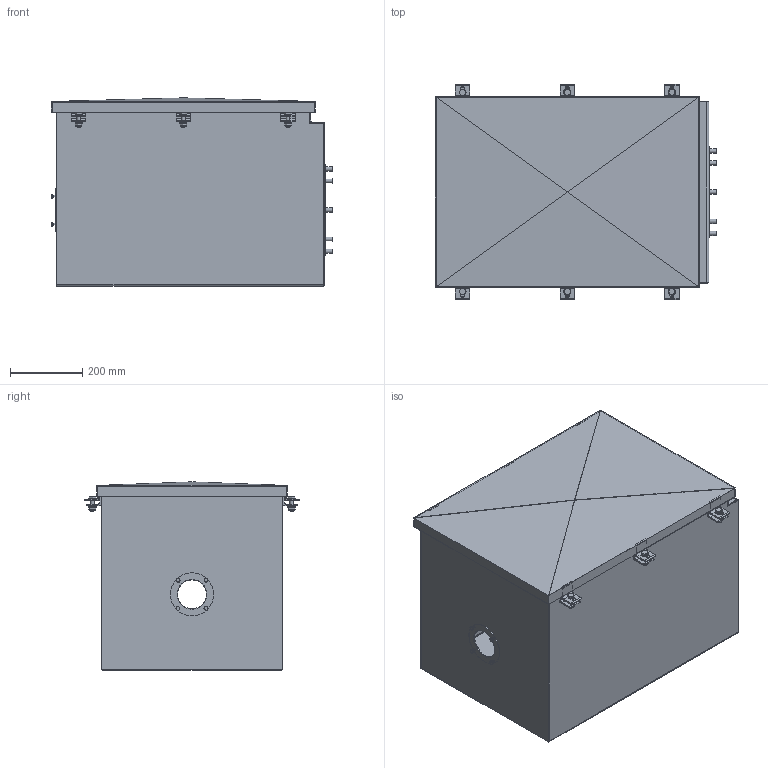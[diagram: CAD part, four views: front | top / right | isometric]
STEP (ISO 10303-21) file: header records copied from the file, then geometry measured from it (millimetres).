
FILE_DESCRIPTION(/* description */ (''),/* implementation_level */ '2;1');
FILE_NAME(/* name */ 'C:\Users\vlakrc01\Desktop\STP\01DEC\EN4-01KV-4R5R.stp',/* time_stamp */ '2017-12-01T10:14:21+01:00',/* author */ ('vlakrc01'),/* organization */ ('Hillmar Industries Ltd.'),/* preprocessor_version */ 'ST-DEVELOPER v16.1',/* originating_system */ 'Autodesk Inventor 2016',/* authorisation */ '');
FILE_SCHEMA (('AUTOMOTIVE_DESIGN { 1 0 10303 214 3 1 1 }'));
Length unit declared in the file: millimetre
Products named in the file (1): EN4-01KV-4R5R_Shrinkwrap_1
Bounding box: 779.48 x 595.97 x 521.77 mm (x, y, z)
Volume: 4787289.4 mm3; surface area: 4454810.6 mm2
Topology: 20 solids, 20 shells, 796 faces, 1931 edges, 1227 vertices
Faces by surface type: plane 450, cylinder 190, cone 156
Full cylindrical faces by diameter (mm): 5.459 x4, 6 x4, 7 x4, 8.7 x4, 9.188 x6, 10 x12, 10.5 x10, 11.053 x8, 12 x10, 14 x8, 14.3 x8, 15.4 x6, 17.2 x8, 20 x10, 80 x1, 82 x1, 118.3 x1, 120 x2, 254 x1
Entity records: 22755 total; most frequent: CARTESIAN_POINT 4409, DIRECTION 3595, ORIENTED_EDGE 3486, EDGE_CURVE 1739, AXIS2_PLACEMENT_3D 1363, VERTEX_POINT 1185, EDGE_LOOP 1082, LINE 869
